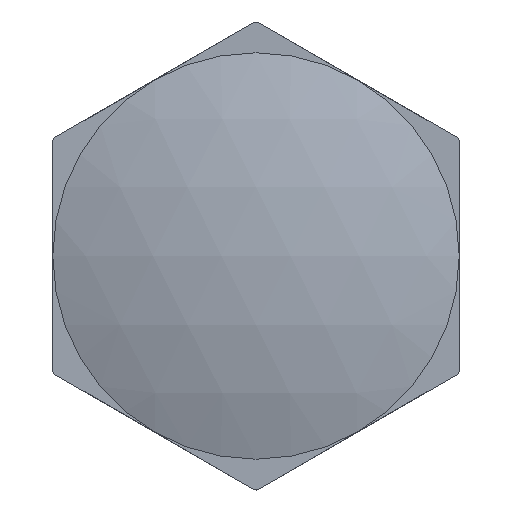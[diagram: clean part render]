
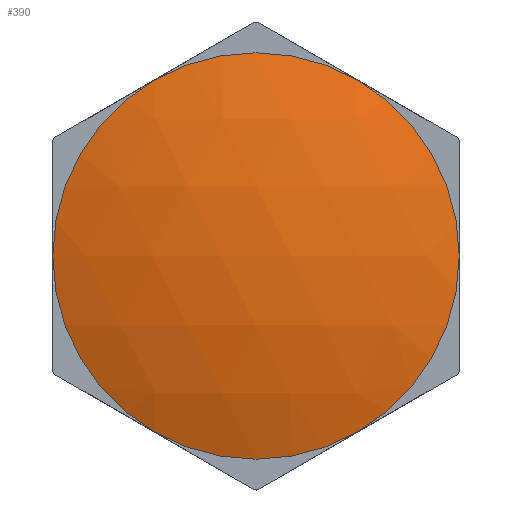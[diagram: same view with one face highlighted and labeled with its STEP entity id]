
A CAD part, left-side view. The second image highlights one B-rep face of the part: STEP entity #390.
In plain terms, the highlighted spherical face has radius 145.016 mm.
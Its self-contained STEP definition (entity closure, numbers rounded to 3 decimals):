
#16=SPHERICAL_SURFACE('',#438,145.016);
#58=FACE_OUTER_BOUND('',#86,.T.);
#86=EDGE_LOOP('',(#353,#354,#355,#356,#357,#358));
#156=CIRCLE('',#408,47.5);
#159=CIRCLE('',#415,47.5);
#161=CIRCLE('',#419,47.5);
#163=CIRCLE('',#424,47.5);
#164=CIRCLE('',#426,47.5);
#165=CIRCLE('',#428,47.5);
#175=VERTEX_POINT('',#578);
#188=VERTEX_POINT('',#610);
#190=VERTEX_POINT('',#616);
#192=VERTEX_POINT('',#624);
#195=VERTEX_POINT('',#634);
#198=VERTEX_POINT('',#645);
#229=EDGE_CURVE('',#188,#190,#156,.T.);
#237=EDGE_CURVE('',#195,#192,#159,.T.);
#243=EDGE_CURVE('',#198,#195,#161,.T.);
#248=EDGE_CURVE('',#175,#198,#163,.T.);
#249=EDGE_CURVE('',#190,#175,#164,.T.);
#251=EDGE_CURVE('',#192,#188,#165,.T.);
#353=ORIENTED_EDGE('',*,*,#251,.T.);
#354=ORIENTED_EDGE('',*,*,#229,.T.);
#355=ORIENTED_EDGE('',*,*,#249,.T.);
#356=ORIENTED_EDGE('',*,*,#248,.T.);
#357=ORIENTED_EDGE('',*,*,#243,.T.);
#358=ORIENTED_EDGE('',*,*,#237,.T.);
#390=ADVANCED_FACE('',(#58),#16,.T.);
#408=AXIS2_PLACEMENT_3D('',#618,#488,#489);
#415=AXIS2_PLACEMENT_3D('',#635,#507,#508);
#419=AXIS2_PLACEMENT_3D('',#646,#519,#520);
#424=AXIS2_PLACEMENT_3D('',#655,#532,#533);
#426=AXIS2_PLACEMENT_3D('',#657,#536,#537);
#428=AXIS2_PLACEMENT_3D('',#660,#541,#542);
#438=AXIS2_PLACEMENT_3D('',#673,#561,#562);
#488=DIRECTION('center_axis',(-1.,0.,0.));
#489=DIRECTION('ref_axis',(0.,0.,1.));
#507=DIRECTION('center_axis',(-1.,0.,0.));
#508=DIRECTION('ref_axis',(0.,0.,1.));
#519=DIRECTION('center_axis',(-1.,0.,0.));
#520=DIRECTION('ref_axis',(0.,0.,1.));
#532=DIRECTION('center_axis',(-1.,0.,0.));
#533=DIRECTION('ref_axis',(0.,0.,1.));
#536=DIRECTION('center_axis',(-1.,0.,0.));
#537=DIRECTION('ref_axis',(0.,0.,1.));
#541=DIRECTION('center_axis',(-1.,0.,0.));
#542=DIRECTION('ref_axis',(0.,0.,1.));
#561=DIRECTION('center_axis',(0.,0.,1.));
#562=DIRECTION('ref_axis',(1.,0.,0.));
#578=CARTESIAN_POINT('',(8.,47.5,0.));
#610=CARTESIAN_POINT('',(8.,-23.75,41.136));
#616=CARTESIAN_POINT('',(8.,23.75,41.136));
#618=CARTESIAN_POINT('Origin',(8.,0.,0.));
#624=CARTESIAN_POINT('',(8.,-47.5,0.));
#634=CARTESIAN_POINT('',(8.,-23.75,-41.136));
#635=CARTESIAN_POINT('Origin',(8.,0.,0.));
#645=CARTESIAN_POINT('',(8.,23.75,-41.136));
#646=CARTESIAN_POINT('Origin',(8.,0.,0.));
#655=CARTESIAN_POINT('Origin',(8.,0.,0.));
#657=CARTESIAN_POINT('Origin',(8.,0.,0.));
#660=CARTESIAN_POINT('Origin',(8.,0.,0.));
#673=CARTESIAN_POINT('Origin',(145.016,0.,0.));
